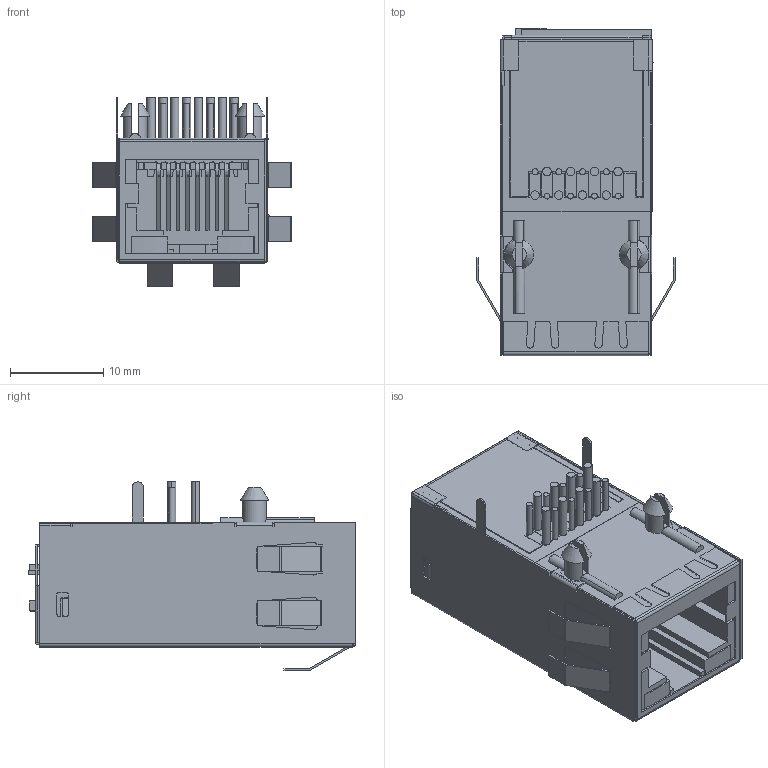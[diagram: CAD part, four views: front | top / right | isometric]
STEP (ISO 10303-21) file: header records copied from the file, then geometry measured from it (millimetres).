
FILE_DESCRIPTION((''),'2;1');
FILE_NAME('C:\Documents and Settings\ryanb\My Documents\Inventor Drawings\X Port\STEP FILES\xport 03 Assembly total.stp','2005-06-14T08:37:46',('ryanb'),(''),'Autodesk Inventor 10','Autodesk Inventor 10','');
FILE_SCHEMA(('AUTOMOTIVE_DESIGN { 1 0 10303 214 1 1 1 1 }'));
Length unit declared in the file: inch
Products named in the file (43): Assembly1; front pins; pinmove; c__documents and settings_ryanb_my documents_schematics & pcbs_xport ex_330-149pcb_c; CR0805, CC0805_1; CC0603, CC0603_3; BGA3X5-14C1, BGA3X5-14C1_7; XTAL-CS10, XTAL-CS10_9; CRN8-EXB28V, CRN8-EXB28V_11; PAD, PAD_13; PADAA, PAD_15; BGA14X14_80-184AA, BGA14X14_80-184_23; CC0402-LAN, CC0402-LAN_25; MICROSMD5, MICROSMD5_54; CC1206, CC1206_64; CRN4-EXB24V, CRN4-EXB24V_66; SOT23FORPI74ST1G125, SOT23FORPI74ST1G125_70; TESTPOINT_SMTXA, TESTPOINT_SMTX_73; TESTPOINT_SMTX, TESTPOINT_SMTX_75; c__documents and settings_ryanb_my documents_schematics & pcbs_xport ex_330-150pcb-a thicker; CC1206, CC1206_1; MTG_75MMA, MTG_75MM_5; MTG_75MMBA, MTG_75MM_7; MTG_75MMB, MTG_75MM_9; CC0603, CC0603_13; MTG_55MM, MTG_55MM_16; PAD2_75X_55A, PAD2_75X_55_29; PAD2_75X_55A, PAD2_75X_55A_39; PAD, PAD_41; leds for xport; leds for xport_MIR; connecting pins; thermal; back cover with heat spreader; pins; back contact; front contact assm; Front Shield; plastic housing; straight pins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
Assembly tree (184 placements, depth 3):
  Assembly1
    front pins  x8
    pinmove  x8
    c__documents and settings_ryanb_my documents_schematics & pcbs_xport ex_330-149pcb_c
      c__documents and settings_ryanb_my documents_schematics & pcbs_xport ex_330-149pcb_c
      CR0805, CC0805_1  x4
      CC0603, CC0603_3  x3
      BGA3X5-14C1, BGA3X5-14C1_7
      XTAL-CS10, XTAL-CS10_9
      CRN8-EXB28V, CRN8-EXB28V_11
      PAD, PAD_13  x17
      PADAA, PAD_15
      BGA14X14_80-184AA, BGA14X14_80-184_23
      CC0402-LAN, CC0402-LAN_25  x45
      MICROSMD5, MICROSMD5_54
      CC1206, CC1206_64
      CRN4-EXB24V, CRN4-EXB24V_66
      SOT23FORPI74ST1G125, SOT23FORPI74ST1G125_70
      TESTPOINT_SMTXA, TESTPOINT_SMTX_73  x3
      TESTPOINT_SMTX, TESTPOINT_SMTX_75  x11
    c__documents and settings_ryanb_my documents_schematics & pcbs_xport ex_330-150pcb-a thicker
      c__documents and settings_ryanb_my documents_schematics & pcbs_xport ex_330-150pcb-a thicker
      CC1206, CC1206_1  x3
      MTG_75MMA, MTG_75MM_5
      MTG_75MMBA, MTG_75MM_7  x2
      MTG_75MMB, MTG_75MM_9  x2
      CC0603, CC0603_13  x4
      MTG_55MM, MTG_55MM_16  x12
      PAD2_75X_55A, PAD2_75X_55_29  x7
      PAD2_75X_55A, PAD2_75X_55A_39
      PAD, PAD_41  x10
    leds for xport
    leds for xport_MIR
    connecting pins  x10
    thermal
    back cover with heat spreader
    pins
    back contact
    front contact assm
    Front Shield
    plastic housing
    straight pins  x10
    base pins
Bounding box: 21.25 x 35.09 x 20.25 mm (x, y, z)
Volume: 3943.5 mm3; surface area: 14745.3 mm2
Topology: 189 solids, 189 shells, 2119 faces, 5178 edges, 3424 vertices
Faces by surface type: plane 1851, cylinder 238, bspline 26, cone 4
Full cylindrical faces by diameter (mm): 0.635 x8
Entity records: 35236 total; most frequent: CARTESIAN_POINT 6216, DIRECTION 5722, ORIENTED_EDGE 5648, EDGE_CURVE 2824, VECTOR 2386, LINE 2386, VERTEX_POINT 1860, AXIS2_PLACEMENT_3D 1668
